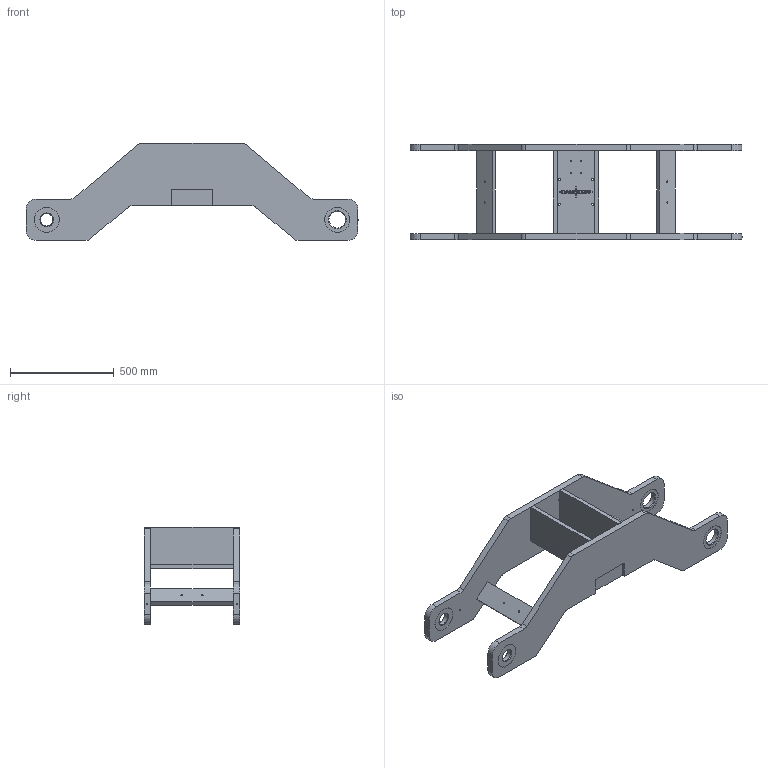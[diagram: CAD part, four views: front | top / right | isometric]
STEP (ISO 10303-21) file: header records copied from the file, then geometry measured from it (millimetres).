
FILE_DESCRIPTION((''),'2;1');
FILE_NAME('C:\Users\User\Desktop\Mastercam-harjoitukset\Runkokehto.stp','2020-03-27T23:34:31',(''),(''),'STEP Write','Mastercam 2020 ... CNC Software, Inc.','');
FILE_SCHEMA(('AUTOMOTIVE_DESIGN'));
Length unit declared in the file: millimetre
Products named in the file (1): None
Bounding box: 1600 x 460 x 467.82 mm (x, y, z)
Volume: 29569306.4 mm3; surface area: 2596466.8 mm2
Topology: 7 solids, 7 shells, 487 faces, 1259 edges, 838 vertices
Faces by surface type: plane 287, bspline 101, cylinder 83, cone 16
Full cylindrical faces by diameter (mm): 3 x4, 5 x4, 5.105 x4, 6.8 x8, 8.5 x6, 15 x2, 20 x2, 60 x2, 80 x2, 120 x8
Entity records: 15761 total; most frequent: CARTESIAN_POINT 4109, ORIENTED_EDGE 2370, DIRECTION 1921, EDGE_CURVE 1185, VERTEX_POINT 822, VECTOR 805, LINE 805, EDGE_LOOP 645
